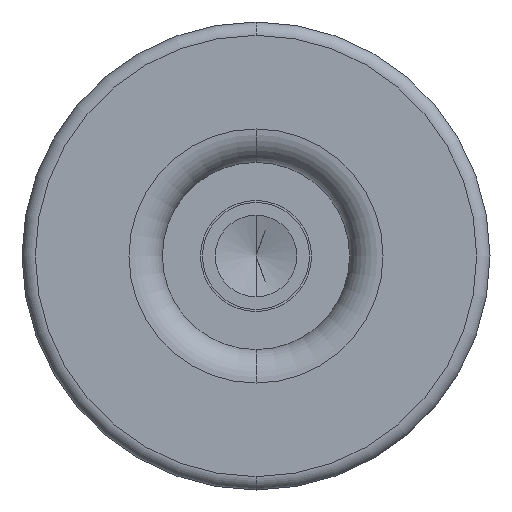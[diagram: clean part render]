
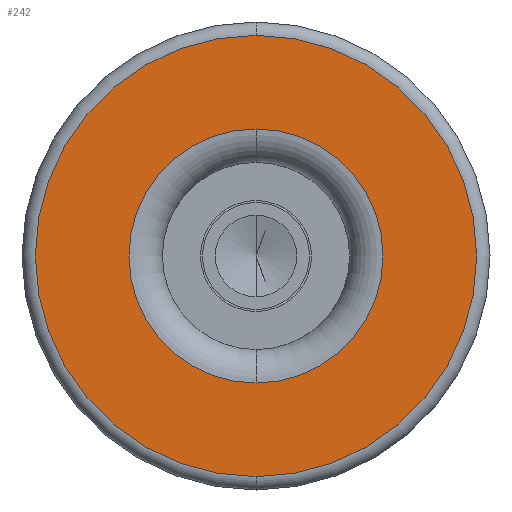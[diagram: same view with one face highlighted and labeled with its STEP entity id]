
A CAD part, front view. The second image highlights one B-rep face of the part: STEP entity #242.
In plain terms, the highlighted planar face has unit normal (0, -1, 0).
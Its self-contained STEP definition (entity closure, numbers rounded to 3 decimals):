
#18 = DIRECTION ( 'NONE',  ( 0., 0., -1. ) ) ;
#242 = ADVANCED_FACE ( 'NONE', ( #6053, #5044 ), #7270, .T. ) ;
#483 = CARTESIAN_POINT ( 'NONE',  ( 0., 0., 0. ) ) ;
#610 = DIRECTION ( 'NONE',  ( 0., -1., 0. ) ) ;
#621 = VERTEX_POINT ( 'NONE', #5611 ) ;
#688 = CIRCLE ( 'NONE', #1107, 9.5 ) ;
#774 = CARTESIAN_POINT ( 'NONE',  ( 0., 0., -16.5 ) ) ;
#863 = DIRECTION ( 'NONE',  ( 0., -1., 0. ) ) ;
#1107 = AXIS2_PLACEMENT_3D ( 'NONE', #483, #5508, #5541 ) ;
#1640 = VERTEX_POINT ( 'NONE', #774 ) ;
#1738 = EDGE_LOOP ( 'NONE', ( #7390, #4026 ) ) ;
#2011 = ORIENTED_EDGE ( 'NONE', *, *, #4807, .T. ) ;
#2433 = EDGE_CURVE ( 'NONE', #2724, #621, #3470, .T. ) ;
#2538 = CARTESIAN_POINT ( 'NONE',  ( 0., 0., 0. ) ) ;
#2702 = EDGE_LOOP ( 'NONE', ( #2011, #7871 ) ) ;
#2724 = VERTEX_POINT ( 'NONE', #7092 ) ;
#2909 = AXIS2_PLACEMENT_3D ( 'NONE', #7047, #7729, #7100 ) ;
#2961 = EDGE_CURVE ( 'NONE', #621, #2724, #688, .T. ) ;
#3013 = EDGE_CURVE ( 'NONE', #5961, #1640, #7057, .T. ) ;
#3470 = CIRCLE ( 'NONE', #2909, 9.5 ) ;
#3634 = CARTESIAN_POINT ( 'NONE',  ( 0., 0., 16.5 ) ) ;
#4026 = ORIENTED_EDGE ( 'NONE', *, *, #2433, .T. ) ;
#4579 = DIRECTION ( 'NONE',  ( 0., -1., 0. ) ) ;
#4807 = EDGE_CURVE ( 'NONE', #1640, #5961, #7365, .T. ) ;
#5044 = FACE_OUTER_BOUND ( 'NONE', #2702, .T. ) ;
#5148 = DIRECTION ( 'NONE',  ( 0., 0., -1. ) ) ;
#5374 = CARTESIAN_POINT ( 'NONE',  ( -7., 0., 0. ) ) ;
#5418 = AXIS2_PLACEMENT_3D ( 'NONE', #2538, #610, #5148 ) ;
#5508 = DIRECTION ( 'NONE',  ( 0., 1., 0. ) ) ;
#5541 = DIRECTION ( 'NONE',  ( 0., 0., -1. ) ) ;
#5611 = CARTESIAN_POINT ( 'NONE',  ( 0., 0., -9.5 ) ) ;
#5961 = VERTEX_POINT ( 'NONE', #3634 ) ;
#6021 = DIRECTION ( 'NONE',  ( 0., 0., -1. ) ) ;
#6053 = FACE_BOUND ( 'NONE', #1738, .T. ) ;
#6428 = AXIS2_PLACEMENT_3D ( 'NONE', #7134, #4579, #18 ) ;
#7047 = CARTESIAN_POINT ( 'NONE',  ( 0., 0., 0. ) ) ;
#7057 = CIRCLE ( 'NONE', #6428, 16.5 ) ;
#7092 = CARTESIAN_POINT ( 'NONE',  ( 0., 0., 9.5 ) ) ;
#7100 = DIRECTION ( 'NONE',  ( 0., 0., -1. ) ) ;
#7129 = AXIS2_PLACEMENT_3D ( 'NONE', #5374, #863, #6021 ) ;
#7134 = CARTESIAN_POINT ( 'NONE',  ( 0., 0., 0. ) ) ;
#7270 = PLANE ( 'NONE',  #7129 ) ;
#7365 = CIRCLE ( 'NONE', #5418, 16.5 ) ;
#7390 = ORIENTED_EDGE ( 'NONE', *, *, #2961, .T. ) ;
#7729 = DIRECTION ( 'NONE',  ( 0., 1., 0. ) ) ;
#7871 = ORIENTED_EDGE ( 'NONE', *, *, #3013, .T. ) ;
